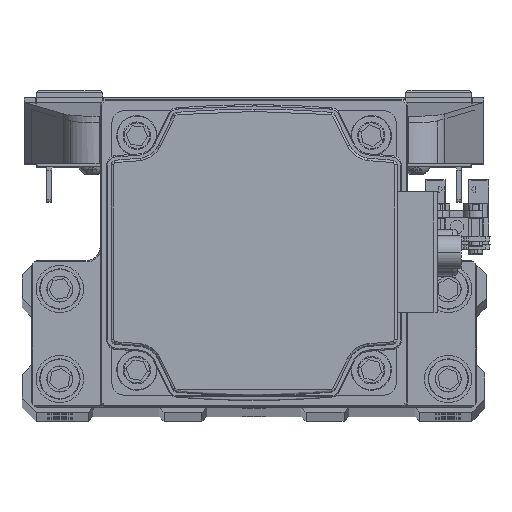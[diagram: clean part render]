
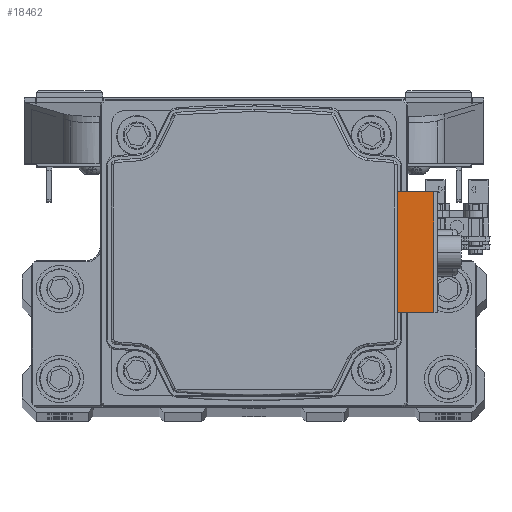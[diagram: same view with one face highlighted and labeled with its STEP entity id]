
A CAD part, top view. The second image highlights one B-rep face of the part: STEP entity #18462.
In plain terms, the highlighted planar face has unit normal (0, 0, 1) as drawn and (0, 0, -1) by its records, which use the part's own axes.
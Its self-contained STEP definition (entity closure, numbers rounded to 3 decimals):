
#2727 = ORIENTED_EDGE ( 'NONE', *, *, #42474, .T. ) ;
#4224 = EDGE_CURVE ( 'NONE', #37996, #34794, #15922, .T. ) ;
#4344 = DIRECTION ( 'NONE',  ( 0., 0., -1. ) ) ;
#5616 = VECTOR ( 'NONE', #44806, 1000. ) ;
#7002 = LINE ( 'NONE', #21925, #43841 ) ;
#8020 = FACE_OUTER_BOUND ( 'NONE', #13101, .T. ) ;
#8094 = CARTESIAN_POINT ( 'NONE',  ( -12.75, 37.9, -88.696 ) ) ;
#11763 = ORIENTED_EDGE ( 'NONE', *, *, #13904, .T. ) ;
#11844 = ORIENTED_EDGE ( 'NONE', *, *, #41555, .F. ) ;
#12753 = VERTEX_POINT ( 'NONE', #16453 ) ;
#13101 = EDGE_LOOP ( 'NONE', ( #2727, #11763, #30282, #11844 ) ) ;
#13904 = EDGE_CURVE ( 'NONE', #12753, #34794, #7002, .T. ) ;
#14793 = CARTESIAN_POINT ( 'NONE',  ( 12.75, 37.9, -88.696 ) ) ;
#14890 = LINE ( 'NONE', #29822, #5616 ) ;
#15922 = LINE ( 'NONE', #30845, #47812 ) ;
#16214 = AXIS2_PLACEMENT_3D ( 'NONE', #37905, #4344, #19260 ) ;
#16453 = CARTESIAN_POINT ( 'NONE',  ( -12.75, 37.9, -88.696 ) ) ;
#18462 = ADVANCED_FACE ( 'NONE', ( #8020 ), #22939, .T. ) ;
#19260 = DIRECTION ( 'NONE',  ( -1., 0., 0. ) ) ;
#21925 = CARTESIAN_POINT ( 'NONE',  ( 0., 37.9, -88.696 ) ) ;
#22939 = PLANE ( 'NONE',  #16214 ) ;
#23006 = DIRECTION ( 'NONE',  ( 0., 1., 0. ) ) ;
#23356 = CARTESIAN_POINT ( 'NONE',  ( 12.75, 30.2, -88.696 ) ) ;
#29822 = CARTESIAN_POINT ( 'NONE',  ( 18.438, 30.2, -88.696 ) ) ;
#30282 = ORIENTED_EDGE ( 'NONE', *, *, #4224, .F. ) ;
#30845 = CARTESIAN_POINT ( 'NONE',  ( 12.75, 33.991, -88.696 ) ) ;
#34794 = VERTEX_POINT ( 'NONE', #14793 ) ;
#36773 = VERTEX_POINT ( 'NONE', #42928 ) ;
#36884 = DIRECTION ( 'NONE',  ( 1., 0., 0. ) ) ;
#37905 = CARTESIAN_POINT ( 'NONE',  ( 0., 37.9, -88.696 ) ) ;
#37996 = VERTEX_POINT ( 'NONE', #23356 ) ;
#39326 = VECTOR ( 'NONE', #23006, 1000. ) ;
#41555 = EDGE_CURVE ( 'NONE', #36773, #37996, #14890, .T. ) ;
#41660 = LINE ( 'NONE', #8094, #39326 ) ;
#42474 = EDGE_CURVE ( 'NONE', #36773, #12753, #41660, .T. ) ;
#42928 = CARTESIAN_POINT ( 'NONE',  ( -12.75, 30.2, -88.696 ) ) ;
#43841 = VECTOR ( 'NONE', #36884, 1000. ) ;
#44806 = DIRECTION ( 'NONE',  ( 1., 0., 0. ) ) ;
#45821 = DIRECTION ( 'NONE',  ( 0., 1., 0. ) ) ;
#47812 = VECTOR ( 'NONE', #45821, 1000. ) ;
